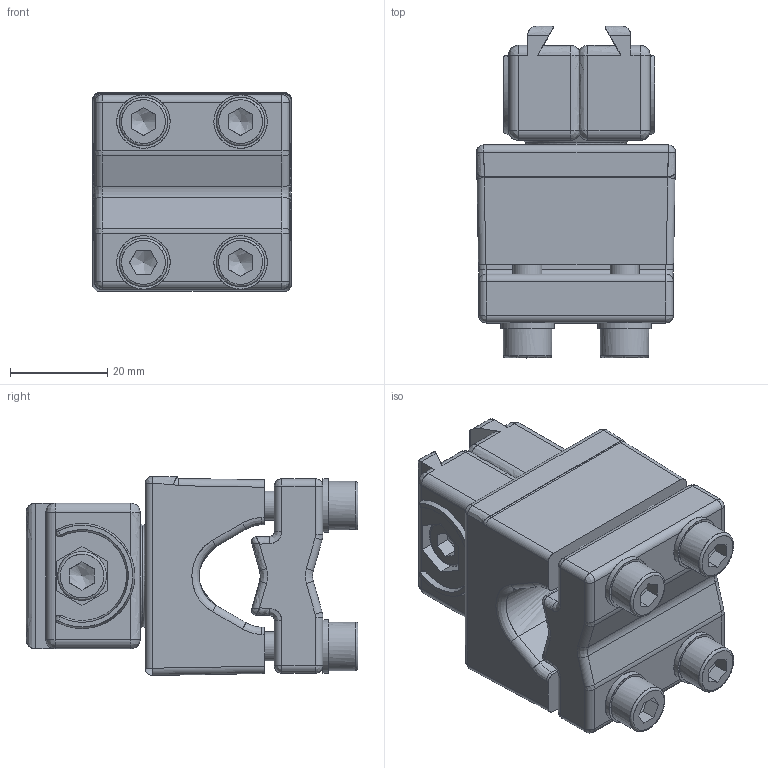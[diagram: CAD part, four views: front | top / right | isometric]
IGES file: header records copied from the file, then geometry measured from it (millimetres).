
Global section: file name: H:\lem\3DCAD_BT56_1.igs; native system: NX V11.0; preprocessor: SIEMENS PLM Software NX 11.0; date: 20200916.115252; units: millimetre
Bounding box: 40.96 x 68.3 x 40.96 mm (x, y, z)
Surface area: 26725.2 mm2 (no closed solid volume)
Topology: 0 solids, 0 shells, 450 faces, 2705 edges, 2587 vertices
Faces by surface type: bspline 450
